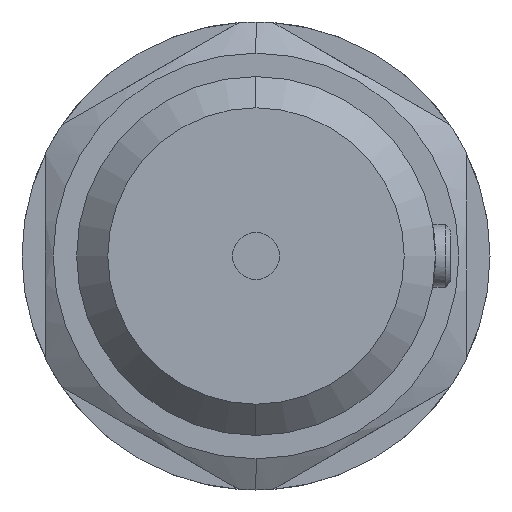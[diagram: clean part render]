
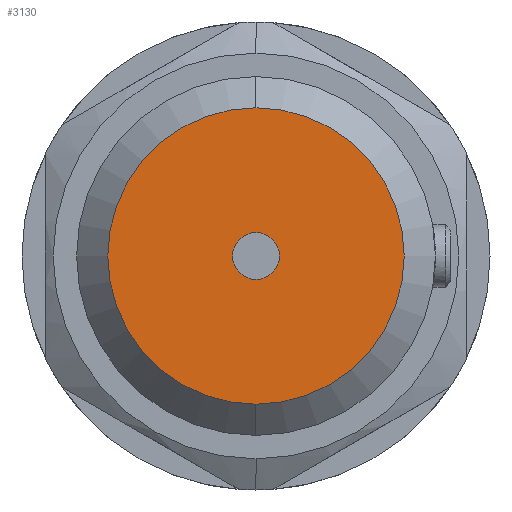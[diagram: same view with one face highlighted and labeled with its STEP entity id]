
A CAD part, left-side view. The second image highlights one B-rep face of the part: STEP entity #3130.
In plain terms, the highlighted planar face has unit normal (-1, 0, 0).
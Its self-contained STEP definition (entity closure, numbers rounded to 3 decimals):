
#127 = AXIS2_PLACEMENT_3D ( 'NONE', #4250, #1276, #4091 ) ;
#214 = EDGE_LOOP ( 'NONE', ( #1598, #641 ) ) ;
#323 = CIRCLE ( 'NONE', #1330, 9.5 ) ;
#345 = ORIENTED_EDGE ( 'NONE', *, *, #2531, .T. ) ;
#430 = DIRECTION ( 'NONE',  ( -1., 0., 0. ) ) ;
#641 = ORIENTED_EDGE ( 'NONE', *, *, #3672, .T. ) ;
#875 = DIRECTION ( 'NONE',  ( 1., 0., 0. ) ) ;
#1028 = CARTESIAN_POINT ( 'NONE',  ( -22., 0., 0. ) ) ;
#1248 = AXIS2_PLACEMENT_3D ( 'NONE', #5420, #2418, #6530 ) ;
#1276 = DIRECTION ( 'NONE',  ( 1., 0., 0. ) ) ;
#1330 = AXIS2_PLACEMENT_3D ( 'NONE', #1028, #430, #5811 ) ;
#1598 = ORIENTED_EDGE ( 'NONE', *, *, #6735, .T. ) ;
#1855 = EDGE_CURVE ( 'NONE', #2049, #5320, #2882, .T. ) ;
#2049 = VERTEX_POINT ( 'NONE', #5465 ) ;
#2345 = CIRCLE ( 'NONE', #1248, 9.5 ) ;
#2418 = DIRECTION ( 'NONE',  ( -1., 0., 0. ) ) ;
#2428 = FACE_OUTER_BOUND ( 'NONE', #214, .T. ) ;
#2531 = EDGE_CURVE ( 'NONE', #5320, #2049, #6473, .T. ) ;
#2844 = VERTEX_POINT ( 'NONE', #6483 ) ;
#2882 = CIRCLE ( 'NONE', #7257, 1.5 ) ;
#3108 = AXIS2_PLACEMENT_3D ( 'NONE', #5901, #6012, #4819 ) ;
#3130 = ADVANCED_FACE ( 'NONE', ( #2428, #7146 ), #5363, .F. ) ;
#3672 = EDGE_CURVE ( 'NONE', #4689, #2844, #2345, .T. ) ;
#3774 = CARTESIAN_POINT ( 'NONE',  ( -22., 0., -9.5 ) ) ;
#4091 = DIRECTION ( 'NONE',  ( 0., 0., 1. ) ) ;
#4187 = CARTESIAN_POINT ( 'NONE',  ( -22., 0., 1.5 ) ) ;
#4250 = CARTESIAN_POINT ( 'NONE',  ( -22., 0., 0. ) ) ;
#4689 = VERTEX_POINT ( 'NONE', #3774 ) ;
#4819 = DIRECTION ( 'NONE',  ( 0., 0., 1. ) ) ;
#4903 = ORIENTED_EDGE ( 'NONE', *, *, #1855, .T. ) ;
#5320 = VERTEX_POINT ( 'NONE', #4187 ) ;
#5363 = PLANE ( 'NONE',  #127 ) ;
#5420 = CARTESIAN_POINT ( 'NONE',  ( -22., 0., 0. ) ) ;
#5465 = CARTESIAN_POINT ( 'NONE',  ( -22., 0., -1.5 ) ) ;
#5637 = DIRECTION ( 'NONE',  ( 0., 0., 1. ) ) ;
#5811 = DIRECTION ( 'NONE',  ( 0., 0., 1. ) ) ;
#5901 = CARTESIAN_POINT ( 'NONE',  ( -22., 0., 0. ) ) ;
#6012 = DIRECTION ( 'NONE',  ( 1., 0., 0. ) ) ;
#6473 = CIRCLE ( 'NONE', #3108, 1.5 ) ;
#6483 = CARTESIAN_POINT ( 'NONE',  ( -22., 0., 9.5 ) ) ;
#6530 = DIRECTION ( 'NONE',  ( 0., 0., 1. ) ) ;
#6735 = EDGE_CURVE ( 'NONE', #2844, #4689, #323, .T. ) ;
#6810 = CARTESIAN_POINT ( 'NONE',  ( -22., 0., 0. ) ) ;
#6908 = EDGE_LOOP ( 'NONE', ( #345, #4903 ) ) ;
#7146 = FACE_BOUND ( 'NONE', #6908, .T. ) ;
#7257 = AXIS2_PLACEMENT_3D ( 'NONE', #6810, #875, #5637 ) ;
